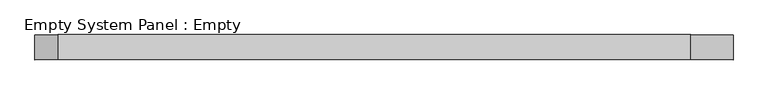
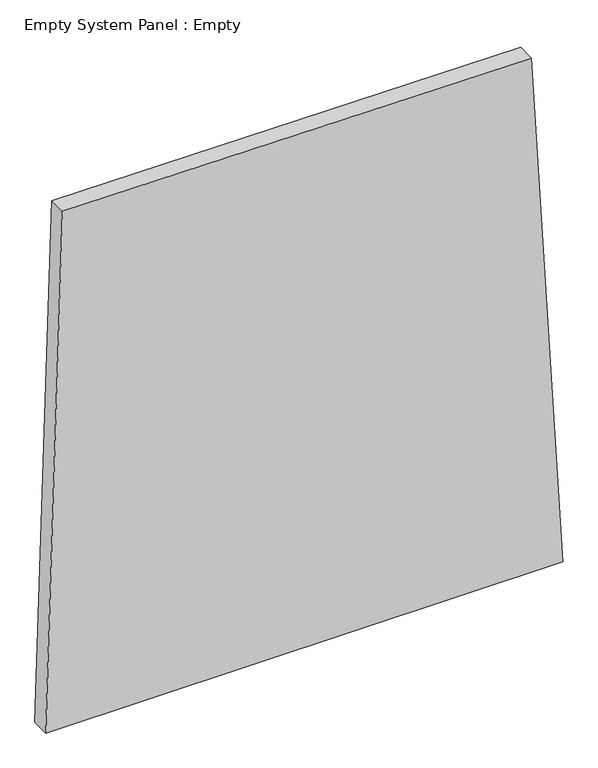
"""IFC4 building model written with IfcOpenShell, lengths in millimetres: plate geometry, Empty System Panel : Empty."""

from ifc_helpers import new_model, si_unit, frame, origin, place, context, project, spatial, polyline, outline, extrude, source, transform, mapped, element, save


def empty_system_panel_empty_cdbc88c9(model_context):
    return source(origin(), model_context, "Body", "SweptSolid", [
        extrude(outline(polyline([(0.0, -1414.1250173), (0.0, 1414.1250173), (2973.5454937, 1242.727513), (2985.7658871, -1322.3880799), (0.0, -1414.1250173)])), frame((0.0, -50.8, 0.0), z_axis=(0.0, 1.0, 0.0), x_axis=(0.0, 0.0, 1.0)), (0.0, 0.0, 1.0), 101.6),
    ])


if __name__ == "__main__":
    model = new_model("IFC4")
    model_context = context("Model", 3, world=origin())
    ifc_project = project(units=[si_unit("LENGTHUNIT", "METRE", prefix="MILLI")], contexts=[model_context])
    site = spatial("IfcSite", under=ifc_project)
    building = spatial("IfcBuilding", under=site)
    placement = place(None, origin())
    empty_system_panel_empty_shape = empty_system_panel_empty_cdbc88c9(model_context)
    element("IfcPlate", 1, ObjectType="Empty System Panel : Empty", at=placement, inside=building, context=model_context, shape_type="MappedRepresentation", body=[
        mapped(empty_system_panel_empty_shape, transform((0.0, 0.0, 0.0), x_axis=(1.0, 0.0, 0.0), y_axis=(0.0, 1.0, 0.0), z_axis=(0.0, 0.0, 1.0))),
    ])
    save(model, "model.ifc")
